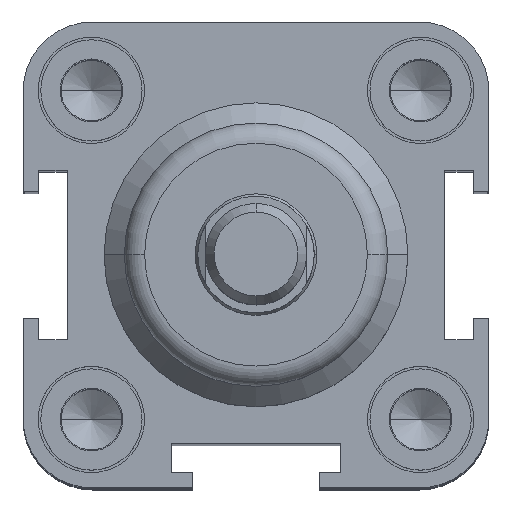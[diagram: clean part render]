
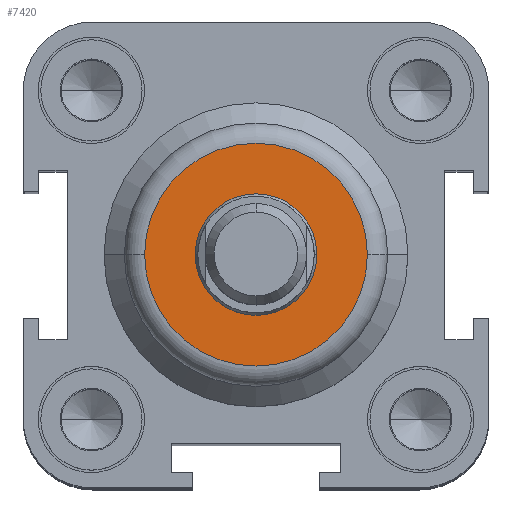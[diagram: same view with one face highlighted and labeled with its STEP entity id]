
A CAD part, top view. The second image highlights one B-rep face of the part: STEP entity #7420.
In plain terms, the highlighted planar face has unit normal (0, 0, 1).
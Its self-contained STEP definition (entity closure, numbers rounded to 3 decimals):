
#1472=CARTESIAN_POINT('',(-11.,0.0,75.5));
#1473=VERTEX_POINT('',#1472);
#1481=CARTESIAN_POINT('',(11.,0.,75.5));
#1482=VERTEX_POINT('',#1481);
#1483=CARTESIAN_POINT('',(0.0,0.0,75.5));
#1484=DIRECTION('',(0.0,0.0,-1.0));
#1485=DIRECTION('',(-1.0,0.0,0.0));
#1486=AXIS2_PLACEMENT_3D('',#1483,#1484,#1485);
#1487=CIRCLE('',#1486,11.);
#1488=EDGE_CURVE('',#1473,#1482,#1487,.T.);
#1593=CARTESIAN_POINT('',(6.,0.0,75.5));
#1594=VERTEX_POINT('',#1593);
#1610=CARTESIAN_POINT('',(-6.,0.,75.5));
#1611=VERTEX_POINT('',#1610);
#1618=CARTESIAN_POINT('',(0.0,0.0,75.5));
#1619=DIRECTION('',(0.0,0.0,-1.0));
#1620=DIRECTION('',(1.0,0.0,0.0));
#1621=AXIS2_PLACEMENT_3D('',#1618,#1619,#1620);
#1622=CIRCLE('',#1621,6.);
#1623=EDGE_CURVE('',#1594,#1611,#1622,.T.);
#7347=CARTESIAN_POINT('',(0.0,0.0,75.5));
#7348=DIRECTION('',(0.0,0.0,-1.0));
#7349=DIRECTION('',(1.0,0.0,0.0));
#7350=AXIS2_PLACEMENT_3D('',#7347,#7348,#7349);
#7351=CIRCLE('',#7350,6.);
#7352=EDGE_CURVE('',#1611,#1594,#7351,.T.);
#7401=CARTESIAN_POINT('',(-5.5,0.0,75.5));
#7402=DIRECTION('',(0.0,0.0,1.0));
#7403=DIRECTION('',(1.0,0.0,0.0));
#7404=AXIS2_PLACEMENT_3D('',#7401,#7402,#7403);
#7405=PLANE('',#7404);
#7406=ORIENTED_EDGE('',*,*,#1488,.F.);
#7407=CARTESIAN_POINT('',(0.0,0.0,75.5));
#7408=DIRECTION('',(0.0,0.0,-1.0));
#7409=DIRECTION('',(-1.0,0.0,0.0));
#7410=AXIS2_PLACEMENT_3D('',#7407,#7408,#7409);
#7411=CIRCLE('',#7410,11.);
#7412=EDGE_CURVE('',#1482,#1473,#7411,.T.);
#7413=ORIENTED_EDGE('',*,*,#7412,.F.);
#7414=EDGE_LOOP('',(#7406,#7413));
#7415=FACE_OUTER_BOUND('',#7414,.T.);
#7416=ORIENTED_EDGE('',*,*,#1623,.T.);
#7417=ORIENTED_EDGE('',*,*,#7352,.T.);
#7418=EDGE_LOOP('',(#7416,#7417));
#7419=FACE_BOUND('',#7418,.T.);
#7420=ADVANCED_FACE('',(#7415,#7419),#7405,.T.);
